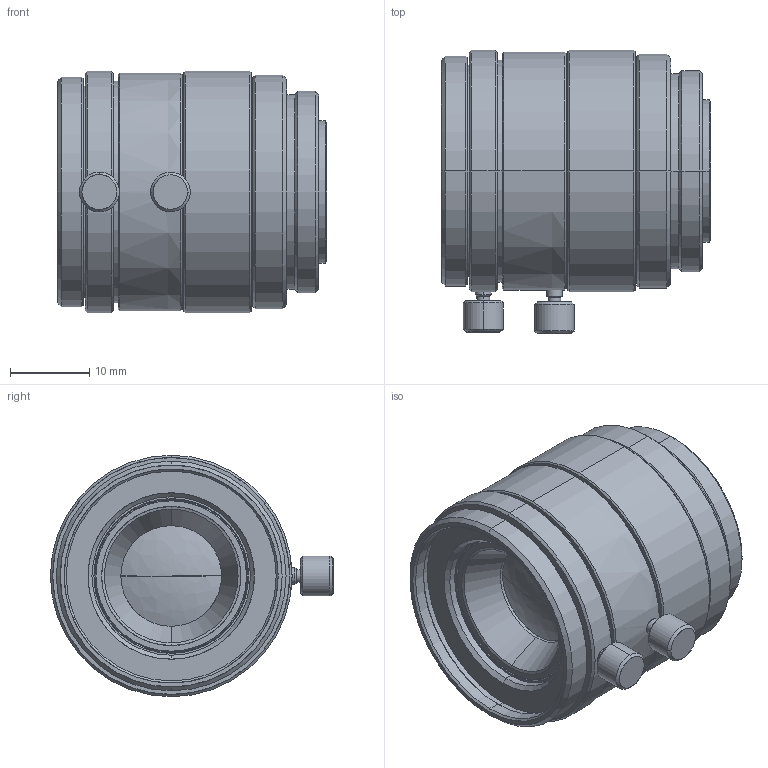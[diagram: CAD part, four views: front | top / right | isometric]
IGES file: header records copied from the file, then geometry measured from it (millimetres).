
Start section: SolidWorks IGES file using analytic representation for surfaces
Global section: file name: C:\Users\tsuji_vst\Documents\【図面】\_3D\00 VST\VS-LDA(APL)\VS-LDA15.IGS; native system: SolidWorks 2016; preprocessor: SolidWorks 2016; author: tsuji_vst; date: 160927.091408; units: millimetre
Bounding box: 33.99 x 35.75 x 30.5 mm (x, y, z)
Surface area: 6735.8 mm2 (no closed solid volume)
Topology: 0 solids, 0 shells, 142 faces, 2404 edges, 2402 vertices
Faces by surface type: revolution 120, bspline 22
